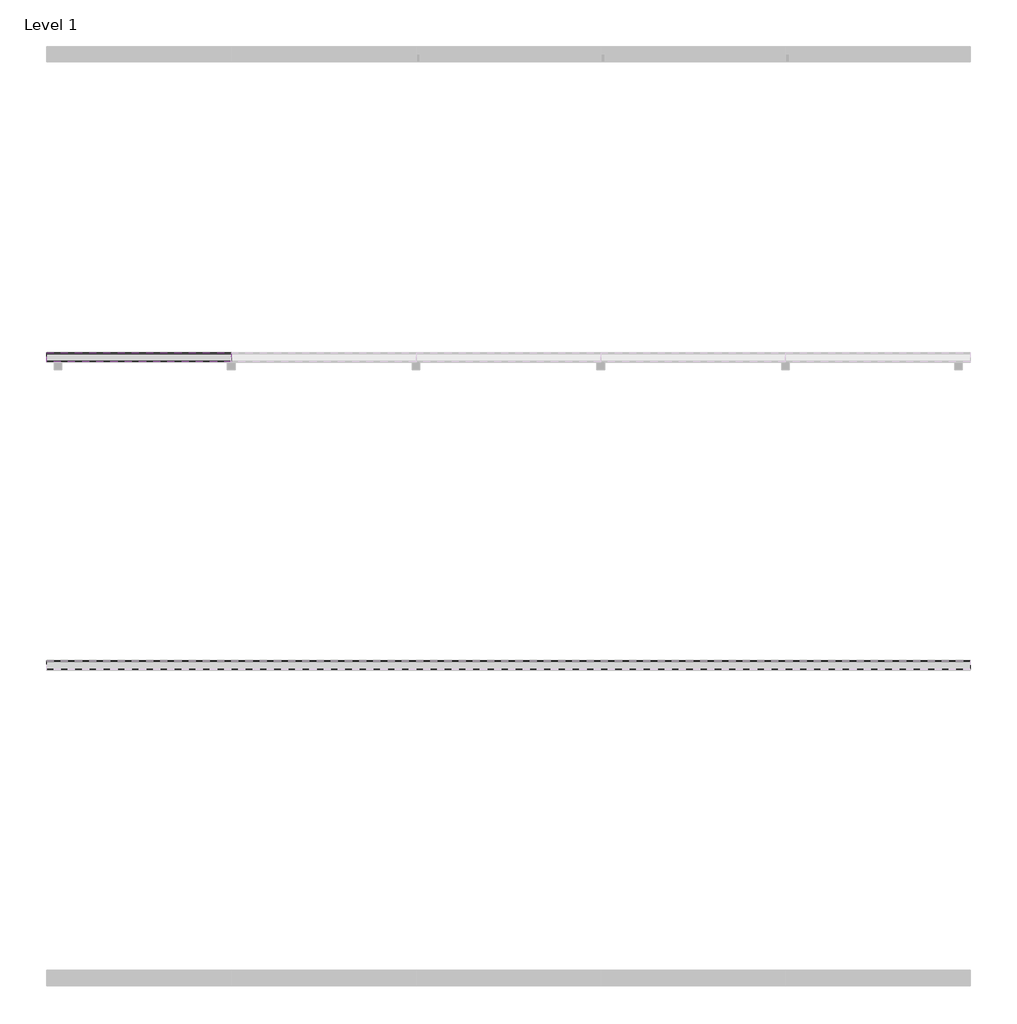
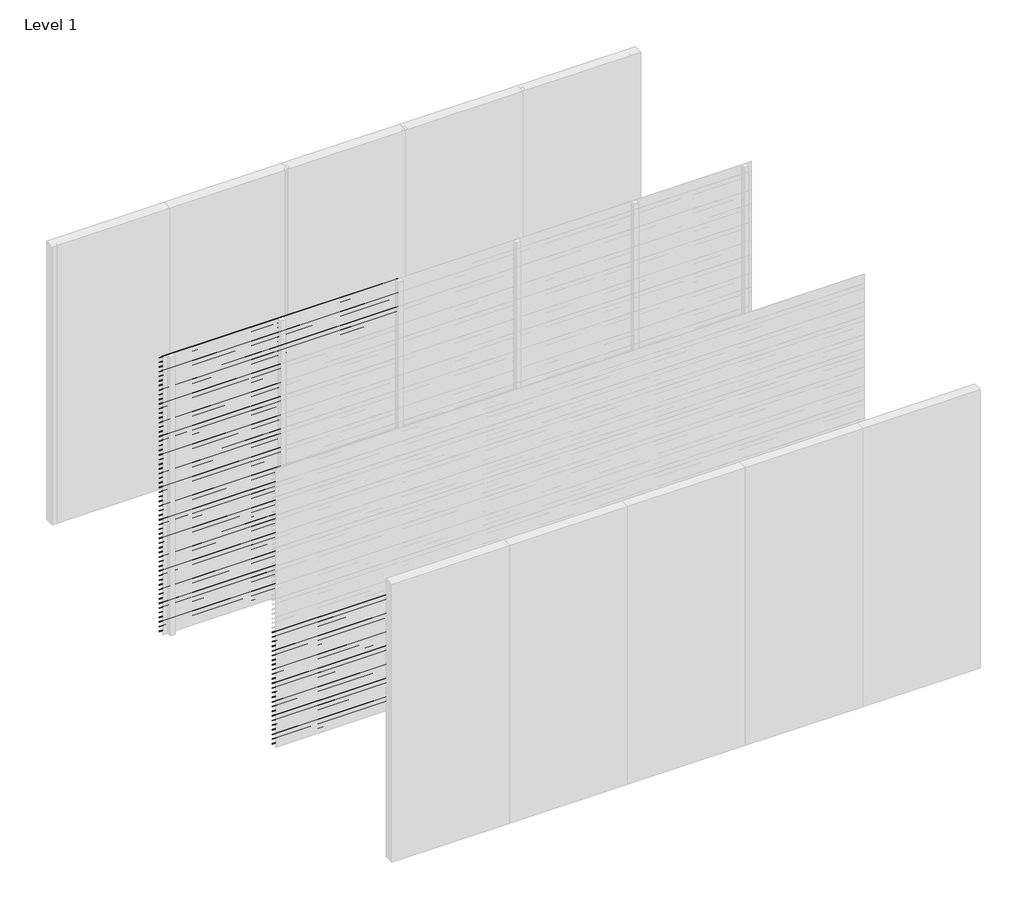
# One storey, part 6 of 16: 94 proxies.
"""IFC4 building model written with IfcOpenShell, lengths in millimetres."""

from ifc_helpers import new_model, si_unit, frame, origin, place, context, project, spatial, polyline, outline, extrude, element, save

model = new_model("IFC4")

# Units and contexts
model_context = context("Model", 3, world=origin())
ifc_project = project(units=[si_unit("LENGTHUNIT", "METRE", prefix="MILLI")], contexts=[model_context])

# Site, building, storey
site = spatial("IfcSite", under=ifc_project)
building = spatial("IfcBuilding", under=site)
storey = spatial("IfcBuildingStorey", under=building, Name="Level 1", Elevation=0.0)

# Proxies
placement = place(None, origin())
element("IfcBuildingElementProxy", 1, Name="Wall Sweeps", at=placement, inside=storey, context=model_context, shape_type="SweptSolid", body=[
    extrude(outline(polyline([(-11995.0, 3000.0), (-11995.0, 2998.0), (-11939.0, 2954.0), (-11939.0, 2946.0), (-11997.0, 2991.5714286), (-11997.0, 3000.0), (-11995.0, 3000.0)])), frame((0.0, 0.0, 0.0), z_axis=(1.0, 0.0, 0.0), x_axis=(0.0, 1.0, 0.0)), (0.0, 0.0, 1.0), 1200.0),
])
element("IfcBuildingElementProxy", 2, Name="Wall Sweeps", at=placement, inside=storey, context=model_context, shape_type="SweptSolid", body=[
    extrude(outline(polyline([(-11995.0, 2950.0), (-11995.0, 2948.0), (-11939.0, 2904.0), (-11939.0, 2896.0), (-11997.0, 2941.5714286), (-11997.0, 2950.0), (-11995.0, 2950.0)])), frame((0.0, 0.0, 0.0), z_axis=(1.0, 0.0, 0.0), x_axis=(0.0, 1.0, 0.0)), (0.0, 0.0, 1.0), 1200.0),
])
element("IfcBuildingElementProxy", 3, Name="Wall Sweeps", at=placement, inside=storey, context=model_context, shape_type="SweptSolid", body=[
    extrude(outline(polyline([(-11995.0, 2900.0), (-11995.0, 2898.0), (-11939.0, 2854.0), (-11939.0, 2846.0), (-11997.0, 2891.5714286), (-11997.0, 2900.0), (-11995.0, 2900.0)])), frame((0.0, 0.0, 0.0), z_axis=(1.0, 0.0, 0.0), x_axis=(0.0, 1.0, 0.0)), (0.0, 0.0, 1.0), 1200.0),
])
element("IfcBuildingElementProxy", 4, Name="Wall Sweeps", at=placement, inside=storey, context=model_context, shape_type="SweptSolid", body=[
    extrude(outline(polyline([(-11995.0, 2850.0), (-11995.0, 2848.0), (-11939.0, 2804.0), (-11939.0, 2796.0), (-11997.0, 2841.5714286), (-11997.0, 2850.0), (-11995.0, 2850.0)])), frame((0.0, 0.0, 0.0), z_axis=(1.0, 0.0, 0.0), x_axis=(0.0, 1.0, 0.0)), (0.0, 0.0, 1.0), 1200.0),
])
element("IfcBuildingElementProxy", 5, Name="Wall Sweeps", at=placement, inside=storey, context=model_context, shape_type="SweptSolid", body=[
    extrude(outline(polyline([(-11995.0, 2800.0), (-11995.0, 2798.0), (-11939.0, 2754.0), (-11939.0, 2746.0), (-11997.0, 2791.5714286), (-11997.0, 2800.0), (-11995.0, 2800.0)])), frame((0.0, 0.0, 0.0), z_axis=(1.0, 0.0, 0.0), x_axis=(0.0, 1.0, 0.0)), (0.0, 0.0, 1.0), 1200.0),
])
element("IfcBuildingElementProxy", 6, Name="Wall Sweeps", at=placement, inside=storey, context=model_context, shape_type="SweptSolid", body=[
    extrude(outline(polyline([(-11995.0, 2750.0), (-11995.0, 2748.0), (-11939.0, 2704.0), (-11939.0, 2696.0), (-11997.0, 2741.5714286), (-11997.0, 2750.0), (-11995.0, 2750.0)])), frame((0.0, 0.0, 0.0), z_axis=(1.0, 0.0, 0.0), x_axis=(0.0, 1.0, 0.0)), (0.0, 0.0, 1.0), 1200.0),
])
element("IfcBuildingElementProxy", 7, Name="Wall Sweeps", at=placement, inside=storey, context=model_context, shape_type="SweptSolid", body=[
    extrude(outline(polyline([(-11995.0, 2700.0), (-11995.0, 2698.0), (-11939.0, 2654.0), (-11939.0, 2646.0), (-11997.0, 2691.5714286), (-11997.0, 2700.0), (-11995.0, 2700.0)])), frame((0.0, 0.0, 0.0), z_axis=(1.0, 0.0, 0.0), x_axis=(0.0, 1.0, 0.0)), (0.0, 0.0, 1.0), 1200.0),
])
element("IfcBuildingElementProxy", 8, Name="Wall Sweeps", at=placement, inside=storey, context=model_context, shape_type="SweptSolid", body=[
    extrude(outline(polyline([(-11995.0, 2650.0), (-11995.0, 2648.0), (-11939.0, 2604.0), (-11939.0, 2596.0), (-11997.0, 2641.5714286), (-11997.0, 2650.0), (-11995.0, 2650.0)])), frame((0.0, 0.0, 0.0), z_axis=(1.0, 0.0, 0.0), x_axis=(0.0, 1.0, 0.0)), (0.0, 0.0, 1.0), 1200.0),
])
element("IfcBuildingElementProxy", 9, Name="Wall Sweeps", at=placement, inside=storey, context=model_context, shape_type="SweptSolid", body=[
    extrude(outline(polyline([(-11995.0, 2600.0), (-11995.0, 2598.0), (-11939.0, 2554.0), (-11939.0, 2546.0), (-11997.0, 2591.5714286), (-11997.0, 2600.0), (-11995.0, 2600.0)])), frame((0.0, 0.0, 0.0), z_axis=(1.0, 0.0, 0.0), x_axis=(0.0, 1.0, 0.0)), (0.0, 0.0, 1.0), 1200.0),
])
element("IfcBuildingElementProxy", 10, Name="Wall Sweeps", at=placement, inside=storey, context=model_context, shape_type="SweptSolid", body=[
    extrude(outline(polyline([(-11995.0, 2550.0), (-11995.0, 2548.0), (-11939.0, 2504.0), (-11939.0, 2496.0), (-11997.0, 2541.5714286), (-11997.0, 2550.0), (-11995.0, 2550.0)])), frame((0.0, 0.0, 0.0), z_axis=(1.0, 0.0, 0.0), x_axis=(0.0, 1.0, 0.0)), (0.0, 0.0, 1.0), 1200.0),
])
element("IfcBuildingElementProxy", 11, Name="Wall Sweeps", at=placement, inside=storey, context=model_context, shape_type="SweptSolid", body=[
    extrude(outline(polyline([(-11995.0, 2500.0), (-11995.0, 2498.0), (-11939.0, 2454.0), (-11939.0, 2446.0), (-11997.0, 2491.5714286), (-11997.0, 2500.0), (-11995.0, 2500.0)])), frame((0.0, 0.0, 0.0), z_axis=(1.0, 0.0, 0.0), x_axis=(0.0, 1.0, 0.0)), (0.0, 0.0, 1.0), 1200.0),
])
element("IfcBuildingElementProxy", 12, Name="Wall Sweeps", at=placement, inside=storey, context=model_context, shape_type="SweptSolid", body=[
    extrude(outline(polyline([(-11995.0, 2450.0), (-11995.0, 2448.0), (-11939.0, 2404.0), (-11939.0, 2396.0), (-11997.0, 2441.5714286), (-11997.0, 2450.0), (-11995.0, 2450.0)])), frame((0.0, 0.0, 0.0), z_axis=(1.0, 0.0, 0.0), x_axis=(0.0, 1.0, 0.0)), (0.0, 0.0, 1.0), 1200.0),
])
element("IfcBuildingElementProxy", 13, Name="Wall Sweeps", at=placement, inside=storey, context=model_context, shape_type="SweptSolid", body=[
    extrude(outline(polyline([(-11995.0, 2400.0), (-11995.0, 2398.0), (-11939.0, 2354.0), (-11939.0, 2346.0), (-11997.0, 2391.5714286), (-11997.0, 2400.0), (-11995.0, 2400.0)])), frame((0.0, 0.0, 0.0), z_axis=(1.0, 0.0, 0.0), x_axis=(0.0, 1.0, 0.0)), (0.0, 0.0, 1.0), 1200.0),
])
element("IfcBuildingElementProxy", 14, Name="Wall Sweeps", at=placement, inside=storey, context=model_context, shape_type="SweptSolid", body=[
    extrude(outline(polyline([(-11995.0, 2350.0), (-11995.0, 2348.0), (-11939.0, 2304.0), (-11939.0, 2296.0), (-11997.0, 2341.5714286), (-11997.0, 2350.0), (-11995.0, 2350.0)])), frame((0.0, 0.0, 0.0), z_axis=(1.0, 0.0, 0.0), x_axis=(0.0, 1.0, 0.0)), (0.0, 0.0, 1.0), 1200.0),
])
element("IfcBuildingElementProxy", 15, Name="Wall Sweeps", at=placement, inside=storey, context=model_context, shape_type="SweptSolid", body=[
    extrude(outline(polyline([(-11995.0, 2300.0), (-11995.0, 2298.0), (-11939.0, 2254.0), (-11939.0, 2246.0), (-11997.0, 2291.5714286), (-11997.0, 2300.0), (-11995.0, 2300.0)])), frame((0.0, 0.0, 0.0), z_axis=(1.0, 0.0, 0.0), x_axis=(0.0, 1.0, 0.0)), (0.0, 0.0, 1.0), 1200.0),
])
element("IfcBuildingElementProxy", 16, Name="Wall Sweeps", at=placement, inside=storey, context=model_context, shape_type="SweptSolid", body=[
    extrude(outline(polyline([(-11995.0, 2250.0), (-11995.0, 2248.0), (-11939.0, 2204.0), (-11939.0, 2196.0), (-11997.0, 2241.5714286), (-11997.0, 2250.0), (-11995.0, 2250.0)])), frame((0.0, 0.0, 0.0), z_axis=(1.0, 0.0, 0.0), x_axis=(0.0, 1.0, 0.0)), (0.0, 0.0, 1.0), 1200.0),
])
element("IfcBuildingElementProxy", 17, Name="Wall Sweeps", at=placement, inside=storey, context=model_context, shape_type="SweptSolid", body=[
    extrude(outline(polyline([(-11995.0, 2200.0), (-11995.0, 2198.0), (-11939.0, 2154.0), (-11939.0, 2146.0), (-11997.0, 2191.5714286), (-11997.0, 2200.0), (-11995.0, 2200.0)])), frame((0.0, 0.0, 0.0), z_axis=(1.0, 0.0, 0.0), x_axis=(0.0, 1.0, 0.0)), (0.0, 0.0, 1.0), 1200.0),
])
element("IfcBuildingElementProxy", 18, Name="Wall Sweeps", at=placement, inside=storey, context=model_context, shape_type="SweptSolid", body=[
    extrude(outline(polyline([(-11995.0, 2150.0), (-11995.0, 2148.0), (-11939.0, 2104.0), (-11939.0, 2096.0), (-11997.0, 2141.5714286), (-11997.0, 2150.0), (-11995.0, 2150.0)])), frame((0.0, 0.0, 0.0), z_axis=(1.0, 0.0, 0.0), x_axis=(0.0, 1.0, 0.0)), (0.0, 0.0, 1.0), 1200.0),
])
element("IfcBuildingElementProxy", 19, Name="Wall Sweeps", at=placement, inside=storey, context=model_context, shape_type="SweptSolid", body=[
    extrude(outline(polyline([(-11995.0, 2100.0), (-11995.0, 2098.0), (-11939.0, 2054.0), (-11939.0, 2046.0), (-11997.0, 2091.5714286), (-11997.0, 2100.0), (-11995.0, 2100.0)])), frame((0.0, 0.0, 0.0), z_axis=(1.0, 0.0, 0.0), x_axis=(0.0, 1.0, 0.0)), (0.0, 0.0, 1.0), 1200.0),
])
element("IfcBuildingElementProxy", 20, Name="Wall Sweeps", at=placement, inside=storey, context=model_context, shape_type="SweptSolid", body=[
    extrude(outline(polyline([(-11995.0, 2050.0), (-11995.0, 2048.0), (-11939.0, 2004.0), (-11939.0, 1996.0), (-11997.0, 2041.5714286), (-11997.0, 2050.0), (-11995.0, 2050.0)])), frame((0.0, 0.0, 0.0), z_axis=(1.0, 0.0, 0.0), x_axis=(0.0, 1.0, 0.0)), (0.0, 0.0, 1.0), 1200.0),
])
element("IfcBuildingElementProxy", 21, Name="Wall Sweeps", at=placement, inside=storey, context=model_context, shape_type="SweptSolid", body=[
    extrude(outline(polyline([(-11995.0, 2000.0), (-11995.0, 1998.0), (-11939.0, 1954.0), (-11939.0, 1946.0), (-11997.0, 1991.5714286), (-11997.0, 2000.0), (-11995.0, 2000.0)])), frame((0.0, 0.0, 0.0), z_axis=(1.0, 0.0, 0.0), x_axis=(0.0, 1.0, 0.0)), (0.0, 0.0, 1.0), 1200.0),
])
element("IfcBuildingElementProxy", 22, Name="Wall Sweeps", at=placement, inside=storey, context=model_context, shape_type="SweptSolid", body=[
    extrude(outline(polyline([(-11995.0, 1950.0), (-11995.0, 1948.0), (-11939.0, 1904.0), (-11939.0, 1896.0), (-11997.0, 1941.5714286), (-11997.0, 1950.0), (-11995.0, 1950.0)])), frame((0.0, 0.0, 0.0), z_axis=(1.0, 0.0, 0.0), x_axis=(0.0, 1.0, 0.0)), (0.0, 0.0, 1.0), 1200.0),
])
element("IfcBuildingElementProxy", 23, Name="Wall Sweeps", at=placement, inside=storey, context=model_context, shape_type="SweptSolid", body=[
    extrude(outline(polyline([(-11995.0, 1900.0), (-11995.0, 1898.0), (-11939.0, 1854.0), (-11939.0, 1846.0), (-11997.0, 1891.5714286), (-11997.0, 1900.0), (-11995.0, 1900.0)])), frame((0.0, 0.0, 0.0), z_axis=(1.0, 0.0, 0.0), x_axis=(0.0, 1.0, 0.0)), (0.0, 0.0, 1.0), 1200.0),
])
element("IfcBuildingElementProxy", 24, Name="Wall Sweeps", at=placement, inside=storey, context=model_context, shape_type="SweptSolid", body=[
    extrude(outline(polyline([(-11995.0, 1850.0), (-11995.0, 1848.0), (-11939.0, 1804.0), (-11939.0, 1796.0), (-11997.0, 1841.5714286), (-11997.0, 1850.0), (-11995.0, 1850.0)])), frame((0.0, 0.0, 0.0), z_axis=(1.0, 0.0, 0.0), x_axis=(0.0, 1.0, 0.0)), (0.0, 0.0, 1.0), 1200.0),
])
element("IfcBuildingElementProxy", 25, Name="Wall Sweeps", at=placement, inside=storey, context=model_context, shape_type="SweptSolid", body=[
    extrude(outline(polyline([(-11995.0, 1800.0), (-11995.0, 1798.0), (-11939.0, 1754.0), (-11939.0, 1746.0), (-11997.0, 1791.5714286), (-11997.0, 1800.0), (-11995.0, 1800.0)])), frame((0.0, 0.0, 0.0), z_axis=(1.0, 0.0, 0.0), x_axis=(0.0, 1.0, 0.0)), (0.0, 0.0, 1.0), 1200.0),
])
element("IfcBuildingElementProxy", 26, Name="Wall Sweeps", at=placement, inside=storey, context=model_context, shape_type="SweptSolid", body=[
    extrude(outline(polyline([(-11995.0, 1750.0), (-11995.0, 1748.0), (-11939.0, 1704.0), (-11939.0, 1696.0), (-11997.0, 1741.5714286), (-11997.0, 1750.0), (-11995.0, 1750.0)])), frame((0.0, 0.0, 0.0), z_axis=(1.0, 0.0, 0.0), x_axis=(0.0, 1.0, 0.0)), (0.0, 0.0, 1.0), 1200.0),
])
element("IfcBuildingElementProxy", 27, Name="Wall Sweeps", at=placement, inside=storey, context=model_context, shape_type="SweptSolid", body=[
    extrude(outline(polyline([(-11995.0, 1700.0), (-11995.0, 1698.0), (-11939.0, 1654.0), (-11939.0, 1646.0), (-11997.0, 1691.5714286), (-11997.0, 1700.0), (-11995.0, 1700.0)])), frame((0.0, 0.0, 0.0), z_axis=(1.0, 0.0, 0.0), x_axis=(0.0, 1.0, 0.0)), (0.0, 0.0, 1.0), 1200.0),
])
element("IfcBuildingElementProxy", 28, Name="Wall Sweeps", at=placement, inside=storey, context=model_context, shape_type="SweptSolid", body=[
    extrude(outline(polyline([(-11995.0, 1650.0), (-11995.0, 1648.0), (-11939.0, 1604.0), (-11939.0, 1596.0), (-11997.0, 1641.5714286), (-11997.0, 1650.0), (-11995.0, 1650.0)])), frame((0.0, 0.0, 0.0), z_axis=(1.0, 0.0, 0.0), x_axis=(0.0, 1.0, 0.0)), (0.0, 0.0, 1.0), 1200.0),
])
element("IfcBuildingElementProxy", 29, Name="Wall Sweeps", at=placement, inside=storey, context=model_context, shape_type="SweptSolid", body=[
    extrude(outline(polyline([(-11995.0, 1600.0), (-11995.0, 1598.0), (-11939.0, 1554.0), (-11939.0, 1546.0), (-11997.0, 1591.5714286), (-11997.0, 1600.0), (-11995.0, 1600.0)])), frame((0.0, 0.0, 0.0), z_axis=(1.0, 0.0, 0.0), x_axis=(0.0, 1.0, 0.0)), (0.0, 0.0, 1.0), 1200.0),
])
element("IfcBuildingElementProxy", 30, Name="Wall Sweeps", at=placement, inside=storey, context=model_context, shape_type="SweptSolid", body=[
    extrude(outline(polyline([(-11995.0, 1550.0), (-11995.0, 1548.0), (-11939.0, 1504.0), (-11939.0, 1496.0), (-11997.0, 1541.5714286), (-11997.0, 1550.0), (-11995.0, 1550.0)])), frame((0.0, 0.0, 0.0), z_axis=(1.0, 0.0, 0.0), x_axis=(0.0, 1.0, 0.0)), (0.0, 0.0, 1.0), 1200.0),
])
element("IfcBuildingElementProxy", 31, Name="Wall Sweeps", at=placement, inside=storey, context=model_context, shape_type="SweptSolid", body=[
    extrude(outline(polyline([(-11995.0, 1500.0), (-11995.0, 1498.0), (-11939.0, 1454.0), (-11939.0, 1446.0), (-11997.0, 1491.5714286), (-11997.0, 1500.0), (-11995.0, 1500.0)])), frame((0.0, 0.0, 0.0), z_axis=(1.0, 0.0, 0.0), x_axis=(0.0, 1.0, 0.0)), (0.0, 0.0, 1.0), 1200.0),
])
element("IfcBuildingElementProxy", 32, Name="Wall Sweeps", at=placement, inside=storey, context=model_context, shape_type="SweptSolid", body=[
    extrude(outline(polyline([(-11995.0, 1450.0), (-11995.0, 1448.0), (-11939.0, 1404.0), (-11939.0, 1396.0), (-11997.0, 1441.5714286), (-11997.0, 1450.0), (-11995.0, 1450.0)])), frame((0.0, 0.0, 0.0), z_axis=(1.0, 0.0, 0.0), x_axis=(0.0, 1.0, 0.0)), (0.0, 0.0, 1.0), 1200.0),
])
element("IfcBuildingElementProxy", 33, Name="Wall Sweeps", at=placement, inside=storey, context=model_context, shape_type="SweptSolid", body=[
    extrude(outline(polyline([(-11995.0, 1400.0), (-11995.0, 1398.0), (-11939.0, 1354.0), (-11939.0, 1346.0), (-11997.0, 1391.5714286), (-11997.0, 1400.0), (-11995.0, 1400.0)])), frame((0.0, 0.0, 0.0), z_axis=(1.0, 0.0, 0.0), x_axis=(0.0, 1.0, 0.0)), (0.0, 0.0, 1.0), 1200.0),
])
element("IfcBuildingElementProxy", 34, Name="Wall Sweeps", at=placement, inside=storey, context=model_context, shape_type="SweptSolid", body=[
    extrude(outline(polyline([(-11995.0, 1350.0), (-11995.0, 1348.0), (-11939.0, 1304.0), (-11939.0, 1296.0), (-11997.0, 1341.5714286), (-11997.0, 1350.0), (-11995.0, 1350.0)])), frame((0.0, 0.0, 0.0), z_axis=(1.0, 0.0, 0.0), x_axis=(0.0, 1.0, 0.0)), (0.0, 0.0, 1.0), 1200.0),
])
element("IfcBuildingElementProxy", 35, Name="Wall Sweeps", at=placement, inside=storey, context=model_context, shape_type="SweptSolid", body=[
    extrude(outline(polyline([(-11995.0, 1300.0), (-11995.0, 1298.0), (-11939.0, 1254.0), (-11939.0, 1246.0), (-11997.0, 1291.5714286), (-11997.0, 1300.0), (-11995.0, 1300.0)])), frame((0.0, 0.0, 0.0), z_axis=(1.0, 0.0, 0.0), x_axis=(0.0, 1.0, 0.0)), (0.0, 0.0, 1.0), 1200.0),
])
element("IfcBuildingElementProxy", 36, Name="Wall Sweeps", at=placement, inside=storey, context=model_context, shape_type="SweptSolid", body=[
    extrude(outline(polyline([(-11995.0, 1250.0), (-11995.0, 1248.0), (-11939.0, 1204.0), (-11939.0, 1196.0), (-11997.0, 1241.5714286), (-11997.0, 1250.0), (-11995.0, 1250.0)])), frame((0.0, 0.0, 0.0), z_axis=(1.0, 0.0, 0.0), x_axis=(0.0, 1.0, 0.0)), (0.0, 0.0, 1.0), 1200.0),
])
element("IfcBuildingElementProxy", 37, Name="Wall Sweeps", at=placement, inside=storey, context=model_context, shape_type="SweptSolid", body=[
    extrude(outline(polyline([(-11995.0, 1200.0), (-11995.0, 1198.0), (-11939.0, 1154.0), (-11939.0, 1146.0), (-11997.0, 1191.5714286), (-11997.0, 1200.0), (-11995.0, 1200.0)])), frame((0.0, 0.0, 0.0), z_axis=(1.0, 0.0, 0.0), x_axis=(0.0, 1.0, 0.0)), (0.0, 0.0, 1.0), 1200.0),
])
element("IfcBuildingElementProxy", 38, Name="Wall Sweeps", at=placement, inside=storey, context=model_context, shape_type="SweptSolid", body=[
    extrude(outline(polyline([(-11995.0, 1150.0), (-11995.0, 1148.0), (-11939.0, 1104.0), (-11939.0, 1096.0), (-11997.0, 1141.5714286), (-11997.0, 1150.0), (-11995.0, 1150.0)])), frame((0.0, 0.0, 0.0), z_axis=(1.0, 0.0, 0.0), x_axis=(0.0, 1.0, 0.0)), (0.0, 0.0, 1.0), 1200.0),
])
element("IfcBuildingElementProxy", 39, Name="Wall Sweeps", at=placement, inside=storey, context=model_context, shape_type="SweptSolid", body=[
    extrude(outline(polyline([(-11995.0, 1100.0), (-11995.0, 1098.0), (-11939.0, 1054.0), (-11939.0, 1046.0), (-11997.0, 1091.5714286), (-11997.0, 1100.0), (-11995.0, 1100.0)])), frame((0.0, 0.0, 0.0), z_axis=(1.0, 0.0, 0.0), x_axis=(0.0, 1.0, 0.0)), (0.0, 0.0, 1.0), 1200.0),
])
element("IfcBuildingElementProxy", 40, Name="Wall Sweeps", at=placement, inside=storey, context=model_context, shape_type="SweptSolid", body=[
    extrude(outline(polyline([(-11995.0, 1050.0), (-11995.0, 1048.0), (-11939.0, 1004.0), (-11939.0, 996.0), (-11997.0, 1041.5714286), (-11997.0, 1050.0), (-11995.0, 1050.0)])), frame((0.0, 0.0, 0.0), z_axis=(1.0, 0.0, 0.0), x_axis=(0.0, 1.0, 0.0)), (0.0, 0.0, 1.0), 1200.0),
])
element("IfcBuildingElementProxy", 41, Name="Wall Sweeps", at=placement, inside=storey, context=model_context, shape_type="SweptSolid", body=[
    extrude(outline(polyline([(-11995.0, 1000.0), (-11995.0, 998.0), (-11939.0, 954.0), (-11939.0, 946.0), (-11997.0, 991.5714286), (-11997.0, 1000.0), (-11995.0, 1000.0)])), frame((0.0, 0.0, 0.0), z_axis=(1.0, 0.0, 0.0), x_axis=(0.0, 1.0, 0.0)), (0.0, 0.0, 1.0), 1200.0),
])
element("IfcBuildingElementProxy", 42, Name="Wall Sweeps", at=placement, inside=storey, context=model_context, shape_type="SweptSolid", body=[
    extrude(outline(polyline([(-11995.0, 950.0), (-11995.0, 948.0), (-11939.0, 904.0), (-11939.0, 896.0), (-11997.0, 941.5714286), (-11997.0, 950.0), (-11995.0, 950.0)])), frame((0.0, 0.0, 0.0), z_axis=(1.0, 0.0, 0.0), x_axis=(0.0, 1.0, 0.0)), (0.0, 0.0, 1.0), 1200.0),
])
element("IfcBuildingElementProxy", 43, Name="Wall Sweeps", at=placement, inside=storey, context=model_context, shape_type="SweptSolid", body=[
    extrude(outline(polyline([(-11995.0, 900.0), (-11995.0, 898.0), (-11939.0, 854.0), (-11939.0, 846.0), (-11997.0, 891.5714286), (-11997.0, 900.0), (-11995.0, 900.0)])), frame((0.0, 0.0, 0.0), z_axis=(1.0, 0.0, 0.0), x_axis=(0.0, 1.0, 0.0)), (0.0, 0.0, 1.0), 1200.0),
])
element("IfcBuildingElementProxy", 44, Name="Wall Sweeps", at=placement, inside=storey, context=model_context, shape_type="SweptSolid", body=[
    extrude(outline(polyline([(-11995.0, 850.0), (-11995.0, 848.0), (-11939.0, 804.0), (-11939.0, 796.0), (-11997.0, 841.5714286), (-11997.0, 850.0), (-11995.0, 850.0)])), frame((0.0, 0.0, 0.0), z_axis=(1.0, 0.0, 0.0), x_axis=(0.0, 1.0, 0.0)), (0.0, 0.0, 1.0), 1200.0),
])
element("IfcBuildingElementProxy", 45, Name="Wall Sweeps", at=placement, inside=storey, context=model_context, shape_type="SweptSolid", body=[
    extrude(outline(polyline([(-11995.0, 800.0), (-11995.0, 798.0), (-11939.0, 754.0), (-11939.0, 746.0), (-11997.0, 791.5714286), (-11997.0, 800.0), (-11995.0, 800.0)])), frame((0.0, 0.0, 0.0), z_axis=(1.0, 0.0, 0.0), x_axis=(0.0, 1.0, 0.0)), (0.0, 0.0, 1.0), 1200.0),
])
element("IfcBuildingElementProxy", 46, Name="Wall Sweeps", at=placement, inside=storey, context=model_context, shape_type="SweptSolid", body=[
    extrude(outline(polyline([(-11995.0, 750.0), (-11995.0, 748.0), (-11939.0, 704.0), (-11939.0, 696.0), (-11997.0, 741.5714286), (-11997.0, 750.0), (-11995.0, 750.0)])), frame((0.0, 0.0, 0.0), z_axis=(1.0, 0.0, 0.0), x_axis=(0.0, 1.0, 0.0)), (0.0, 0.0, 1.0), 1200.0),
])
element("IfcBuildingElementProxy", 47, Name="Wall Sweeps", at=placement, inside=storey, context=model_context, shape_type="SweptSolid", body=[
    extrude(outline(polyline([(-11995.0, 700.0), (-11995.0, 698.0), (-11939.0, 654.0), (-11939.0, 646.0), (-11997.0, 691.5714286), (-11997.0, 700.0), (-11995.0, 700.0)])), frame((0.0, 0.0, 0.0), z_axis=(1.0, 0.0, 0.0), x_axis=(0.0, 1.0, 0.0)), (0.0, 0.0, 1.0), 1200.0),
])
element("IfcBuildingElementProxy", 48, Name="Wall Sweeps", at=placement, inside=storey, context=model_context, shape_type="SweptSolid", body=[
    extrude(outline(polyline([(-11995.0, 650.0), (-11995.0, 648.0), (-11939.0, 604.0), (-11939.0, 596.0), (-11997.0, 641.5714286), (-11997.0, 650.0), (-11995.0, 650.0)])), frame((0.0, 0.0, 0.0), z_axis=(1.0, 0.0, 0.0), x_axis=(0.0, 1.0, 0.0)), (0.0, 0.0, 1.0), 1200.0),
])
element("IfcBuildingElementProxy", 49, Name="Wall Sweeps", at=placement, inside=storey, context=model_context, shape_type="SweptSolid", body=[
    extrude(outline(polyline([(-11995.0, 600.0), (-11995.0, 598.0), (-11939.0, 554.0), (-11939.0, 546.0), (-11997.0, 591.5714286), (-11997.0, 600.0), (-11995.0, 600.0)])), frame((0.0, 0.0, 0.0), z_axis=(1.0, 0.0, 0.0), x_axis=(0.0, 1.0, 0.0)), (0.0, 0.0, 1.0), 1200.0),
])
element("IfcBuildingElementProxy", 50, Name="Wall Sweeps", at=placement, inside=storey, context=model_context, shape_type="SweptSolid", body=[
    extrude(outline(polyline([(-11995.0, 550.0), (-11995.0, 548.0), (-11939.0, 504.0), (-11939.0, 496.0), (-11997.0, 541.5714286), (-11997.0, 550.0), (-11995.0, 550.0)])), frame((0.0, 0.0, 0.0), z_axis=(1.0, 0.0, 0.0), x_axis=(0.0, 1.0, 0.0)), (0.0, 0.0, 1.0), 1200.0),
])
element("IfcBuildingElementProxy", 51, Name="Wall Sweeps", at=placement, inside=storey, context=model_context, shape_type="SweptSolid", body=[
    extrude(outline(polyline([(-11995.0, 500.0), (-11995.0, 498.0), (-11939.0, 454.0), (-11939.0, 446.0), (-11997.0, 491.5714286), (-11997.0, 500.0), (-11995.0, 500.0)])), frame((0.0, 0.0, 0.0), z_axis=(1.0, 0.0, 0.0), x_axis=(0.0, 1.0, 0.0)), (0.0, 0.0, 1.0), 1200.0),
])
element("IfcBuildingElementProxy", 52, Name="Wall Sweeps", at=placement, inside=storey, context=model_context, shape_type="SweptSolid", body=[
    extrude(outline(polyline([(-11995.0, 450.0), (-11995.0, 448.0), (-11939.0, 404.0), (-11939.0, 396.0), (-11997.0, 441.5714286), (-11997.0, 450.0), (-11995.0, 450.0)])), frame((0.0, 0.0, 0.0), z_axis=(1.0, 0.0, 0.0), x_axis=(0.0, 1.0, 0.0)), (0.0, 0.0, 1.0), 1200.0),
])
element("IfcBuildingElementProxy", 53, Name="Wall Sweeps", at=placement, inside=storey, context=model_context, shape_type="SweptSolid", body=[
    extrude(outline(polyline([(-11995.0, 400.0), (-11995.0, 398.0), (-11939.0, 354.0), (-11939.0, 346.0), (-11997.0, 391.5714286), (-11997.0, 400.0), (-11995.0, 400.0)])), frame((0.0, 0.0, 0.0), z_axis=(1.0, 0.0, 0.0), x_axis=(0.0, 1.0, 0.0)), (0.0, 0.0, 1.0), 1200.0),
])
element("IfcBuildingElementProxy", 54, Name="Wall Sweeps", at=placement, inside=storey, context=model_context, shape_type="SweptSolid", body=[
    extrude(outline(polyline([(-11995.0, 350.0), (-11995.0, 348.0), (-11939.0, 304.0), (-11939.0, 296.0), (-11997.0, 341.5714286), (-11997.0, 350.0), (-11995.0, 350.0)])), frame((0.0, 0.0, 0.0), z_axis=(1.0, 0.0, 0.0), x_axis=(0.0, 1.0, 0.0)), (0.0, 0.0, 1.0), 1200.0),
])
element("IfcBuildingElementProxy", 55, Name="Wall Sweeps", at=placement, inside=storey, context=model_context, shape_type="SweptSolid", body=[
    extrude(outline(polyline([(-11995.0, 300.0), (-11995.0, 298.0), (-11939.0, 254.0), (-11939.0, 246.0), (-11997.0, 291.5714286), (-11997.0, 300.0), (-11995.0, 300.0)])), frame((0.0, 0.0, 0.0), z_axis=(1.0, 0.0, 0.0), x_axis=(0.0, 1.0, 0.0)), (0.0, 0.0, 1.0), 1200.0),
])
element("IfcBuildingElementProxy", 56, Name="Wall Sweeps", at=placement, inside=storey, context=model_context, shape_type="SweptSolid", body=[
    extrude(outline(polyline([(-11995.0, 250.0), (-11995.0, 248.0), (-11939.0, 204.0), (-11939.0, 196.0), (-11997.0, 241.5714286), (-11997.0, 250.0), (-11995.0, 250.0)])), frame((0.0, 0.0, 0.0), z_axis=(1.0, 0.0, 0.0), x_axis=(0.0, 1.0, 0.0)), (0.0, 0.0, 1.0), 1200.0),
])
element("IfcBuildingElementProxy", 57, Name="Wall Sweeps", at=placement, inside=storey, context=model_context, shape_type="SweptSolid", body=[
    extrude(outline(polyline([(-11995.0, 200.0), (-11995.0, 198.0), (-11939.0, 154.0), (-11939.0, 146.0), (-11997.0, 191.5714286), (-11997.0, 200.0), (-11995.0, 200.0)])), frame((0.0, 0.0, 0.0), z_axis=(1.0, 0.0, 0.0), x_axis=(0.0, 1.0, 0.0)), (0.0, 0.0, 1.0), 1200.0),
])
element("IfcBuildingElementProxy", 58, Name="Wall Sweeps", at=placement, inside=storey, context=model_context, shape_type="SweptSolid", body=[
    extrude(outline(polyline([(-11995.0, 150.0), (-11995.0, 148.0), (-11939.0, 104.0), (-11939.0, 96.0), (-11997.0, 141.5714286), (-11997.0, 150.0), (-11995.0, 150.0)])), frame((0.0, 0.0, 0.0), z_axis=(1.0, 0.0, 0.0), x_axis=(0.0, 1.0, 0.0)), (0.0, 0.0, 1.0), 1200.0),
])
element("IfcBuildingElementProxy", 59, Name="Wall Sweeps", at=placement, inside=storey, context=model_context, shape_type="SweptSolid", body=[
    extrude(outline(polyline([(-11995.0, 100.0), (-11995.0, 98.0), (-11939.0, 54.0), (-11939.0, 46.0), (-11997.0, 91.5714286), (-11997.0, 100.0), (-11995.0, 100.0)])), frame((0.0, 0.0, 0.0), z_axis=(1.0, 0.0, 0.0), x_axis=(0.0, 1.0, 0.0)), (0.0, 0.0, 1.0), 1200.0),
])
element("IfcBuildingElementProxy", 60, Name="Wall Sweeps", at=placement, inside=storey, context=model_context, shape_type="SweptSolid", body=[
    extrude(outline(polyline([(-11995.0, 50.0), (-11995.0, 48.0), (-11939.0, 4.0), (-11939.0, -4.0), (-11997.0, 41.5714286), (-11997.0, 50.0), (-11995.0, 50.0)])), frame((0.0, 0.0, 0.0), z_axis=(1.0, 0.0, 0.0), x_axis=(0.0, 1.0, 0.0)), (0.0, 0.0, 1.0), 1200.0),
])
element("IfcBuildingElementProxy", 61, Name="Wall Sweeps", at=placement, inside=storey, context=model_context, shape_type="SweptSolid", body=[
    extrude(outline(polyline([(-11995.0, 3000.0), (-11995.0, 2998.0), (-11939.0, 2954.0), (-11939.0, 2946.0), (-11997.0, 2991.5714286), (-11997.0, 3000.0), (-11995.0, 3000.0)])), frame((1200.0, 0.0, 0.0), z_axis=(1.0, 0.0, 0.0), x_axis=(0.0, 1.0, 0.0)), (0.0, 0.0, 1.0), 1200.0),
])
element("IfcBuildingElementProxy", 62, Name="Wall Sweeps", at=placement, inside=storey, context=model_context, shape_type="SweptSolid", body=[
    extrude(outline(polyline([(-11995.0, 2950.0), (-11995.0, 2948.0), (-11939.0, 2904.0), (-11939.0, 2896.0), (-11997.0, 2941.5714286), (-11997.0, 2950.0), (-11995.0, 2950.0)])), frame((1200.0, 0.0, 0.0), z_axis=(1.0, 0.0, 0.0), x_axis=(0.0, 1.0, 0.0)), (0.0, 0.0, 1.0), 1200.0),
])
element("IfcBuildingElementProxy", 63, Name="Wall Sweeps", at=placement, inside=storey, context=model_context, shape_type="SweptSolid", body=[
    extrude(outline(polyline([(-11995.0, 2900.0), (-11995.0, 2898.0), (-11939.0, 2854.0), (-11939.0, 2846.0), (-11997.0, 2891.5714286), (-11997.0, 2900.0), (-11995.0, 2900.0)])), frame((1200.0, 0.0, 0.0), z_axis=(1.0, 0.0, 0.0), x_axis=(0.0, 1.0, 0.0)), (0.0, 0.0, 1.0), 1200.0),
])
element("IfcBuildingElementProxy", 64, Name="Wall Sweeps", at=placement, inside=storey, context=model_context, shape_type="SweptSolid", body=[
    extrude(outline(polyline([(-11995.0, 2850.0), (-11995.0, 2848.0), (-11939.0, 2804.0), (-11939.0, 2796.0), (-11997.0, 2841.5714286), (-11997.0, 2850.0), (-11995.0, 2850.0)])), frame((1200.0, 0.0, 0.0), z_axis=(1.0, 0.0, 0.0), x_axis=(0.0, 1.0, 0.0)), (0.0, 0.0, 1.0), 1200.0),
])
element("IfcBuildingElementProxy", 65, Name="Wall Sweeps", at=placement, inside=storey, context=model_context, shape_type="SweptSolid", body=[
    extrude(outline(polyline([(-11995.0, 2800.0), (-11995.0, 2798.0), (-11939.0, 2754.0), (-11939.0, 2746.0), (-11997.0, 2791.5714286), (-11997.0, 2800.0), (-11995.0, 2800.0)])), frame((1200.0, 0.0, 0.0), z_axis=(1.0, 0.0, 0.0), x_axis=(0.0, 1.0, 0.0)), (0.0, 0.0, 1.0), 1200.0),
])
element("IfcBuildingElementProxy", 66, Name="Wall Sweeps", at=placement, inside=storey, context=model_context, shape_type="SweptSolid", body=[
    extrude(outline(polyline([(-11995.0, 2750.0), (-11995.0, 2748.0), (-11939.0, 2704.0), (-11939.0, 2696.0), (-11997.0, 2741.5714286), (-11997.0, 2750.0), (-11995.0, 2750.0)])), frame((1200.0, 0.0, 0.0), z_axis=(1.0, 0.0, 0.0), x_axis=(0.0, 1.0, 0.0)), (0.0, 0.0, 1.0), 1200.0),
])
element("IfcBuildingElementProxy", 67, Name="Wall Sweeps", at=placement, inside=storey, context=model_context, shape_type="SweptSolid", body=[
    extrude(outline(polyline([(-11995.0, 2700.0), (-11995.0, 2698.0), (-11939.0, 2654.0), (-11939.0, 2646.0), (-11997.0, 2691.5714286), (-11997.0, 2700.0), (-11995.0, 2700.0)])), frame((1200.0, 0.0, 0.0), z_axis=(1.0, 0.0, 0.0), x_axis=(0.0, 1.0, 0.0)), (0.0, 0.0, 1.0), 1200.0),
])
element("IfcBuildingElementProxy", 68, Name="Wall Sweeps", at=placement, inside=storey, context=model_context, shape_type="SweptSolid", body=[
    extrude(outline(polyline([(-11995.0, 2650.0), (-11995.0, 2648.0), (-11939.0, 2604.0), (-11939.0, 2596.0), (-11997.0, 2641.5714286), (-11997.0, 2650.0), (-11995.0, 2650.0)])), frame((1200.0, 0.0, 0.0), z_axis=(1.0, 0.0, 0.0), x_axis=(0.0, 1.0, 0.0)), (0.0, 0.0, 1.0), 1200.0),
])
element("IfcBuildingElementProxy", 69, Name="Wall Sweeps", at=placement, inside=storey, context=model_context, shape_type="SweptSolid", body=[
    extrude(outline(polyline([(-11995.0, 2600.0), (-11995.0, 2598.0), (-11939.0, 2554.0), (-11939.0, 2546.0), (-11997.0, 2591.5714286), (-11997.0, 2600.0), (-11995.0, 2600.0)])), frame((1200.0, 0.0, 0.0), z_axis=(1.0, 0.0, 0.0), x_axis=(0.0, 1.0, 0.0)), (0.0, 0.0, 1.0), 1200.0),
])
element("IfcBuildingElementProxy", 70, Name="Wall Sweeps", at=placement, inside=storey, context=model_context, shape_type="SweptSolid", body=[
    extrude(outline(polyline([(-13995.0, 1250.0), (-13995.0, 1248.0), (-13939.0, 1204.0), (-13939.0, 1196.0), (-13997.0, 1241.5714286), (-13997.0, 1250.0), (-13995.0, 1250.0)])), frame((0.0, 0.0, 0.0), z_axis=(1.0, 0.0, 0.0), x_axis=(0.0, 1.0, 0.0)), (0.0, 0.0, 1.0), 6000.0),
])
element("IfcBuildingElementProxy", 71, Name="Wall Sweeps", at=placement, inside=storey, context=model_context, shape_type="SweptSolid", body=[
    extrude(outline(polyline([(-13995.0, 1200.0), (-13995.0, 1198.0), (-13939.0, 1154.0), (-13939.0, 1146.0), (-13997.0, 1191.5714286), (-13997.0, 1200.0), (-13995.0, 1200.0)])), frame((0.0, 0.0, 0.0), z_axis=(1.0, 0.0, 0.0), x_axis=(0.0, 1.0, 0.0)), (0.0, 0.0, 1.0), 6000.0),
])
element("IfcBuildingElementProxy", 72, Name="Wall Sweeps", at=placement, inside=storey, context=model_context, shape_type="SweptSolid", body=[
    extrude(outline(polyline([(-13995.0, 1150.0), (-13995.0, 1148.0), (-13939.0, 1104.0), (-13939.0, 1096.0), (-13997.0, 1141.5714286), (-13997.0, 1150.0), (-13995.0, 1150.0)])), frame((0.0, 0.0, 0.0), z_axis=(1.0, 0.0, 0.0), x_axis=(0.0, 1.0, 0.0)), (0.0, 0.0, 1.0), 6000.0),
])
element("IfcBuildingElementProxy", 73, Name="Wall Sweeps", at=placement, inside=storey, context=model_context, shape_type="SweptSolid", body=[
    extrude(outline(polyline([(-13995.0, 1100.0), (-13995.0, 1098.0), (-13939.0, 1054.0), (-13939.0, 1046.0), (-13997.0, 1091.5714286), (-13997.0, 1100.0), (-13995.0, 1100.0)])), frame((0.0, 0.0, 0.0), z_axis=(1.0, 0.0, 0.0), x_axis=(0.0, 1.0, 0.0)), (0.0, 0.0, 1.0), 6000.0),
])
element("IfcBuildingElementProxy", 74, Name="Wall Sweeps", at=placement, inside=storey, context=model_context, shape_type="SweptSolid", body=[
    extrude(outline(polyline([(-13995.0, 1050.0), (-13995.0, 1048.0), (-13939.0, 1004.0), (-13939.0, 996.0), (-13997.0, 1041.5714286), (-13997.0, 1050.0), (-13995.0, 1050.0)])), frame((0.0, 0.0, 0.0), z_axis=(1.0, 0.0, 0.0), x_axis=(0.0, 1.0, 0.0)), (0.0, 0.0, 1.0), 6000.0),
])
element("IfcBuildingElementProxy", 75, Name="Wall Sweeps", at=placement, inside=storey, context=model_context, shape_type="SweptSolid", body=[
    extrude(outline(polyline([(-13995.0, 1000.0), (-13995.0, 998.0), (-13939.0, 954.0), (-13939.0, 946.0), (-13997.0, 991.5714286), (-13997.0, 1000.0), (-13995.0, 1000.0)])), frame((0.0, 0.0, 0.0), z_axis=(1.0, 0.0, 0.0), x_axis=(0.0, 1.0, 0.0)), (0.0, 0.0, 1.0), 6000.0),
])
element("IfcBuildingElementProxy", 76, Name="Wall Sweeps", at=placement, inside=storey, context=model_context, shape_type="SweptSolid", body=[
    extrude(outline(polyline([(-13995.0, 950.0), (-13995.0, 948.0), (-13939.0, 904.0), (-13939.0, 896.0), (-13997.0, 941.5714286), (-13997.0, 950.0), (-13995.0, 950.0)])), frame((0.0, 0.0, 0.0), z_axis=(1.0, 0.0, 0.0), x_axis=(0.0, 1.0, 0.0)), (0.0, 0.0, 1.0), 6000.0),
])
element("IfcBuildingElementProxy", 77, Name="Wall Sweeps", at=placement, inside=storey, context=model_context, shape_type="SweptSolid", body=[
    extrude(outline(polyline([(-13995.0, 900.0), (-13995.0, 898.0), (-13939.0, 854.0), (-13939.0, 846.0), (-13997.0, 891.5714286), (-13997.0, 900.0), (-13995.0, 900.0)])), frame((0.0, 0.0, 0.0), z_axis=(1.0, 0.0, 0.0), x_axis=(0.0, 1.0, 0.0)), (0.0, 0.0, 1.0), 6000.0),
])
element("IfcBuildingElementProxy", 78, Name="Wall Sweeps", at=placement, inside=storey, context=model_context, shape_type="SweptSolid", body=[
    extrude(outline(polyline([(-13995.0, 850.0), (-13995.0, 848.0), (-13939.0, 804.0), (-13939.0, 796.0), (-13997.0, 841.5714286), (-13997.0, 850.0), (-13995.0, 850.0)])), frame((0.0, 0.0, 0.0), z_axis=(1.0, 0.0, 0.0), x_axis=(0.0, 1.0, 0.0)), (0.0, 0.0, 1.0), 6000.0),
])
element("IfcBuildingElementProxy", 79, Name="Wall Sweeps", at=placement, inside=storey, context=model_context, shape_type="SweptSolid", body=[
    extrude(outline(polyline([(-13995.0, 800.0), (-13995.0, 798.0), (-13939.0, 754.0), (-13939.0, 746.0), (-13997.0, 791.5714286), (-13997.0, 800.0), (-13995.0, 800.0)])), frame((0.0, 0.0, 0.0), z_axis=(1.0, 0.0, 0.0), x_axis=(0.0, 1.0, 0.0)), (0.0, 0.0, 1.0), 6000.0),
])
element("IfcBuildingElementProxy", 80, Name="Wall Sweeps", at=placement, inside=storey, context=model_context, shape_type="SweptSolid", body=[
    extrude(outline(polyline([(-13995.0, 750.0), (-13995.0, 748.0), (-13939.0, 704.0), (-13939.0, 696.0), (-13997.0, 741.5714286), (-13997.0, 750.0), (-13995.0, 750.0)])), frame((0.0, 0.0, 0.0), z_axis=(1.0, 0.0, 0.0), x_axis=(0.0, 1.0, 0.0)), (0.0, 0.0, 1.0), 6000.0),
])
element("IfcBuildingElementProxy", 81, Name="Wall Sweeps", at=placement, inside=storey, context=model_context, shape_type="SweptSolid", body=[
    extrude(outline(polyline([(-13995.0, 700.0), (-13995.0, 698.0), (-13939.0, 654.0), (-13939.0, 646.0), (-13997.0, 691.5714286), (-13997.0, 700.0), (-13995.0, 700.0)])), frame((0.0, 0.0, 0.0), z_axis=(1.0, 0.0, 0.0), x_axis=(0.0, 1.0, 0.0)), (0.0, 0.0, 1.0), 6000.0),
])
element("IfcBuildingElementProxy", 82, Name="Wall Sweeps", at=placement, inside=storey, context=model_context, shape_type="SweptSolid", body=[
    extrude(outline(polyline([(-13995.0, 650.0), (-13995.0, 648.0), (-13939.0, 604.0), (-13939.0, 596.0), (-13997.0, 641.5714286), (-13997.0, 650.0), (-13995.0, 650.0)])), frame((0.0, 0.0, 0.0), z_axis=(1.0, 0.0, 0.0), x_axis=(0.0, 1.0, 0.0)), (0.0, 0.0, 1.0), 6000.0),
])
element("IfcBuildingElementProxy", 83, Name="Wall Sweeps", at=placement, inside=storey, context=model_context, shape_type="SweptSolid", body=[
    extrude(outline(polyline([(-13995.0, 600.0), (-13995.0, 598.0), (-13939.0, 554.0), (-13939.0, 546.0), (-13997.0, 591.5714286), (-13997.0, 600.0), (-13995.0, 600.0)])), frame((0.0, 0.0, 0.0), z_axis=(1.0, 0.0, 0.0), x_axis=(0.0, 1.0, 0.0)), (0.0, 0.0, 1.0), 6000.0),
])
element("IfcBuildingElementProxy", 84, Name="Wall Sweeps", at=placement, inside=storey, context=model_context, shape_type="SweptSolid", body=[
    extrude(outline(polyline([(-13995.0, 550.0), (-13995.0, 548.0), (-13939.0, 504.0), (-13939.0, 496.0), (-13997.0, 541.5714286), (-13997.0, 550.0), (-13995.0, 550.0)])), frame((0.0, 0.0, 0.0), z_axis=(1.0, 0.0, 0.0), x_axis=(0.0, 1.0, 0.0)), (0.0, 0.0, 1.0), 6000.0),
])
element("IfcBuildingElementProxy", 85, Name="Wall Sweeps", at=placement, inside=storey, context=model_context, shape_type="SweptSolid", body=[
    extrude(outline(polyline([(-13995.0, 500.0), (-13995.0, 498.0), (-13939.0, 454.0), (-13939.0, 446.0), (-13997.0, 491.5714286), (-13997.0, 500.0), (-13995.0, 500.0)])), frame((0.0, 0.0, 0.0), z_axis=(1.0, 0.0, 0.0), x_axis=(0.0, 1.0, 0.0)), (0.0, 0.0, 1.0), 6000.0),
])
element("IfcBuildingElementProxy", 86, Name="Wall Sweeps", at=placement, inside=storey, context=model_context, shape_type="SweptSolid", body=[
    extrude(outline(polyline([(-13995.0, 450.0), (-13995.0, 448.0), (-13939.0, 404.0), (-13939.0, 396.0), (-13997.0, 441.5714286), (-13997.0, 450.0), (-13995.0, 450.0)])), frame((0.0, 0.0, 0.0), z_axis=(1.0, 0.0, 0.0), x_axis=(0.0, 1.0, 0.0)), (0.0, 0.0, 1.0), 6000.0),
])
element("IfcBuildingElementProxy", 87, Name="Wall Sweeps", at=placement, inside=storey, context=model_context, shape_type="SweptSolid", body=[
    extrude(outline(polyline([(-13995.0, 400.0), (-13995.0, 398.0), (-13939.0, 354.0), (-13939.0, 346.0), (-13997.0, 391.5714286), (-13997.0, 400.0), (-13995.0, 400.0)])), frame((0.0, 0.0, 0.0), z_axis=(1.0, 0.0, 0.0), x_axis=(0.0, 1.0, 0.0)), (0.0, 0.0, 1.0), 6000.0),
])
element("IfcBuildingElementProxy", 88, Name="Wall Sweeps", at=placement, inside=storey, context=model_context, shape_type="SweptSolid", body=[
    extrude(outline(polyline([(-13995.0, 350.0), (-13995.0, 348.0), (-13939.0, 304.0), (-13939.0, 296.0), (-13997.0, 341.5714286), (-13997.0, 350.0), (-13995.0, 350.0)])), frame((0.0, 0.0, 0.0), z_axis=(1.0, 0.0, 0.0), x_axis=(0.0, 1.0, 0.0)), (0.0, 0.0, 1.0), 6000.0),
])
element("IfcBuildingElementProxy", 89, Name="Wall Sweeps", at=placement, inside=storey, context=model_context, shape_type="SweptSolid", body=[
    extrude(outline(polyline([(-13995.0, 300.0), (-13995.0, 298.0), (-13939.0, 254.0), (-13939.0, 246.0), (-13997.0, 291.5714286), (-13997.0, 300.0), (-13995.0, 300.0)])), frame((0.0, 0.0, 0.0), z_axis=(1.0, 0.0, 0.0), x_axis=(0.0, 1.0, 0.0)), (0.0, 0.0, 1.0), 6000.0),
])
element("IfcBuildingElementProxy", 90, Name="Wall Sweeps", at=placement, inside=storey, context=model_context, shape_type="SweptSolid", body=[
    extrude(outline(polyline([(-13995.0, 250.0), (-13995.0, 248.0), (-13939.0, 204.0), (-13939.0, 196.0), (-13997.0, 241.5714286), (-13997.0, 250.0), (-13995.0, 250.0)])), frame((0.0, 0.0, 0.0), z_axis=(1.0, 0.0, 0.0), x_axis=(0.0, 1.0, 0.0)), (0.0, 0.0, 1.0), 6000.0),
])
element("IfcBuildingElementProxy", 91, Name="Wall Sweeps", at=placement, inside=storey, context=model_context, shape_type="SweptSolid", body=[
    extrude(outline(polyline([(-13995.0, 200.0), (-13995.0, 198.0), (-13939.0, 154.0), (-13939.0, 146.0), (-13997.0, 191.5714286), (-13997.0, 200.0), (-13995.0, 200.0)])), frame((0.0, 0.0, 0.0), z_axis=(1.0, 0.0, 0.0), x_axis=(0.0, 1.0, 0.0)), (0.0, 0.0, 1.0), 6000.0),
])
element("IfcBuildingElementProxy", 92, Name="Wall Sweeps", at=placement, inside=storey, context=model_context, shape_type="SweptSolid", body=[
    extrude(outline(polyline([(-13995.0, 150.0), (-13995.0, 148.0), (-13939.0, 104.0), (-13939.0, 96.0), (-13997.0, 141.5714286), (-13997.0, 150.0), (-13995.0, 150.0)])), frame((0.0, 0.0, 0.0), z_axis=(1.0, 0.0, 0.0), x_axis=(0.0, 1.0, 0.0)), (0.0, 0.0, 1.0), 6000.0),
])
element("IfcBuildingElementProxy", 93, Name="Wall Sweeps", at=placement, inside=storey, context=model_context, shape_type="SweptSolid", body=[
    extrude(outline(polyline([(-13995.0, 100.0), (-13995.0, 98.0), (-13939.0, 54.0), (-13939.0, 46.0), (-13997.0, 91.5714286), (-13997.0, 100.0), (-13995.0, 100.0)])), frame((0.0, 0.0, 0.0), z_axis=(1.0, 0.0, 0.0), x_axis=(0.0, 1.0, 0.0)), (0.0, 0.0, 1.0), 6000.0),
])
element("IfcBuildingElementProxy", 94, Name="Wall Sweeps", at=placement, inside=storey, context=model_context, shape_type="SweptSolid", body=[
    extrude(outline(polyline([(-13995.0, 50.0), (-13995.0, 48.0), (-13939.0, 4.0), (-13939.0, -4.0), (-13997.0, 41.5714286), (-13997.0, 50.0), (-13995.0, 50.0)])), frame((0.0, 0.0, 0.0), z_axis=(1.0, 0.0, 0.0), x_axis=(0.0, 1.0, 0.0)), (0.0, 0.0, 1.0), 6000.0),
])

save(model, "model.ifc")
